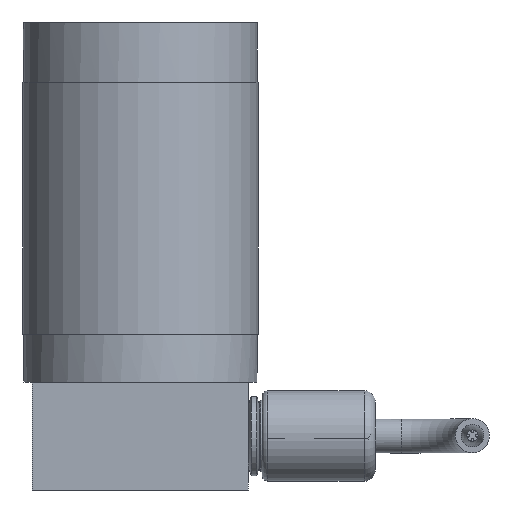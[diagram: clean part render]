
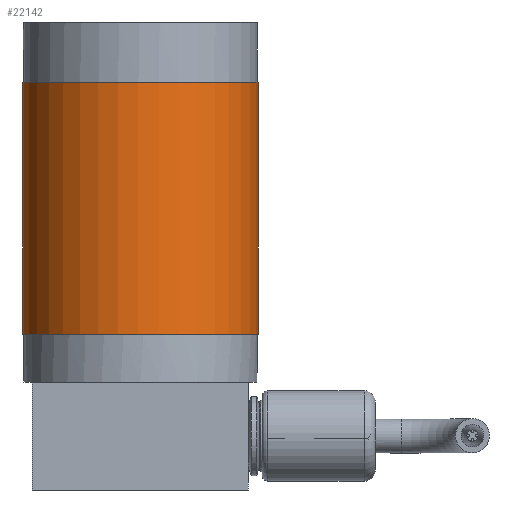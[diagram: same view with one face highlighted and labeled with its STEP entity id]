
A CAD part, left-side view. The second image highlights one B-rep face of the part: STEP entity #22142.
In plain terms, the highlighted cylindrical face has radius 20.765 mm (diameter 41.529 mm), a full revolution.
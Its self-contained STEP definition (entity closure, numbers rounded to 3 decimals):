
#5106=FACE_BOUND('',#7406,.T.);
#5262=CYLINDRICAL_SURFACE('',#23408,20.765);
#6011=FACE_OUTER_BOUND('',#7405,.T.);
#7405=EDGE_LOOP('',(#16836));
#7406=EDGE_LOOP('',(#16837));
#8214=CIRCLE('',#23409,20.765);
#8215=CIRCLE('',#23410,20.765);
#9565=VERTEX_POINT('',#34750);
#9566=VERTEX_POINT('',#34752);
#12153=EDGE_CURVE('',#9565,#9565,#8214,.T.);
#12154=EDGE_CURVE('',#9566,#9566,#8215,.T.);
#16836=ORIENTED_EDGE('',*,*,#12153,.T.);
#16837=ORIENTED_EDGE('',*,*,#12154,.F.);
#22142=ADVANCED_FACE('',(#6011,#5106),#5262,.T.);
#23408=AXIS2_PLACEMENT_3D('',#34749,#26478,#26479);
#23409=AXIS2_PLACEMENT_3D('',#34751,#26480,#26481);
#23410=AXIS2_PLACEMENT_3D('',#34753,#26482,#26483);
#26478=DIRECTION('center_axis',(0.,0.,1.));
#26479=DIRECTION('ref_axis',(-1.,0.016,0.));
#26480=DIRECTION('center_axis',(0.,0.,-1.));
#26481=DIRECTION('ref_axis',(-1.,0.016,0.));
#26482=DIRECTION('center_axis',(0.,0.,-1.));
#26483=DIRECTION('ref_axis',(-1.,0.016,0.));
#34749=CARTESIAN_POINT('Origin',(0.,0.,27.456));
#34750=CARTESIAN_POINT('',(20.762,-0.329,71.906));
#34751=CARTESIAN_POINT('Origin',(0.,0.,71.906));
#34752=CARTESIAN_POINT('',(20.762,-0.329,27.456));
#34753=CARTESIAN_POINT('Origin',(0.,0.,27.456));
